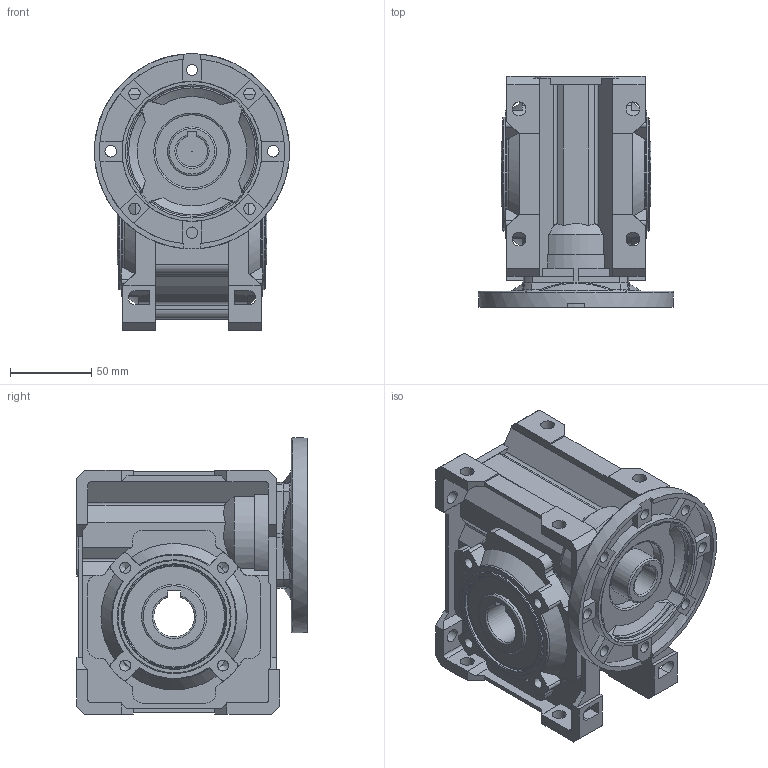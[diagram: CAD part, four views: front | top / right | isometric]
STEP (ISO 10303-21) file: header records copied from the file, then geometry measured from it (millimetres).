
FILE_DESCRIPTION( ( 'Unknown' ), '1' );
FILE_NAME( 'E:/services/configuratordownloads/customers/tramec/xh/download/4864254F7A71C71D3DE0EE4C6DF8614B/STEP/4864254F7A71C71D3DE0EE4C6DF8614B.3d.stp', 'Unknown', ( 'Unknown' ), ( 'Unknown' ), 'PSStep 10.1', 'Unknown', ' ' );
FILE_SCHEMA( ( 'AUTOMOTIVE_DESIGN { 1 0 10303 214 1 1 1 1 }' ) );
Length unit declared in the file: millimetre
Products named in the file (1): 1011620011-Corpo riduttore XC50 pam 19
Bounding box: 120 x 142 x 170 mm (x, y, z)
Volume: 1017096.9 mm3; surface area: 173434.2 mm2
Topology: 1 solids, 8 shells, 667 faces, 1878 edges, 1219 vertices
Faces by surface type: plane 358, cylinder 185, cone 51, torus 49, bspline 16, sphere 8
Full cylindrical faces by diameter (mm): 0.1 x1, 6.8 x8, 7 x8, 8.5 x12, 30 x1, 40 x3, 45 x1, 62.01 x1, 63.01 x1, 64 x2, 68 x2, 70 x2, 86 x1, 120 x1
Entity records: 28284 total; most frequent: CARTESIAN_POINT 6130, ORIENTED_EDGE 3518, DIRECTION 3438, EDGE_CURVE 1759, AXIS2_PLACEMENT_3D 1241, VERTEX_POINT 1183, LINE 956, VECTOR 956
